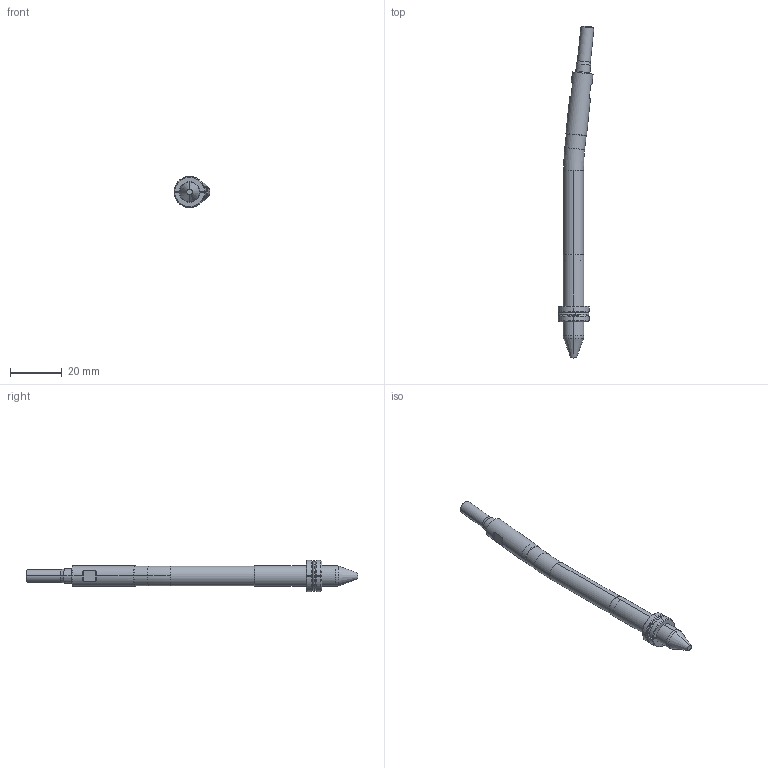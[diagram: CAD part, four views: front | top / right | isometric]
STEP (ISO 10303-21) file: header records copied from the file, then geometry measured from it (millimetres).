
FILE_DESCRIPTION (( 'STEP AP214' ), '1' );
FILE_NAME ('WP080030-INJ 6°.STEP', '2021-03-19T15:19:46', ( '' ), ( '' ), 'SwSTEP 2.0', 'SolidWorks 2019', '' );
FILE_SCHEMA (( 'AUTOMOTIVE_DESIGN' ));
Length unit declared in the file: millimetre
Products named in the file (6): WP080030-INJ 6°; Web-WP08-2; Web-WP08-7; Web-WP08-6; Web-WP08-1; Web-WP08-F_WP08-F-OFF 6ø
Assembly tree (5 placements, depth 2):
  WP080030-INJ 6°
    Web-WP08-1
    Web-WP08-F_WP08-F-OFF 6ø
    Web-WP08-2
    Web-WP08-6
    Web-WP08-7
Bounding box: 13.83 x 127.96 x 12 mm (x, y, z)
Volume: 5841.5 mm3; surface area: 4095.4 mm2
Topology: 6 solids, 6 shells, 121 faces, 280 edges, 174 vertices
Faces by surface type: cylinder 36, plane 29, cone 28, torus 28
Entity records: 3977 total; most frequent: CARTESIAN_POINT 767, DIRECTION 652, ORIENTED_EDGE 560, AXIS2_PLACEMENT_3D 283, EDGE_CURVE 280, VERTEX_POINT 174, CIRCLE 154, EDGE_LOOP 126
